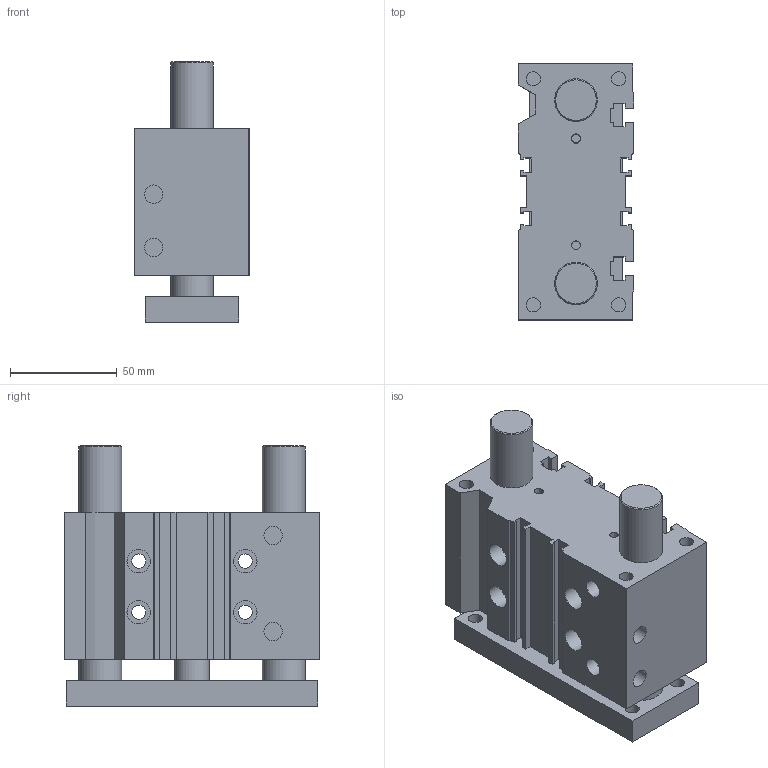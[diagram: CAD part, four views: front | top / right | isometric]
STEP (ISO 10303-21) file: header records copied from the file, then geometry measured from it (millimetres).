
FILE_DESCRIPTION((''),'2;1');
FILE_NAME('I:\Area Tecnica\Disegni\VARIE-3D\Componenti\6100\6100 Ø20-63\6100_##_###_#\6100400025B.stp','2012-01-11T09:03:15',('airolcr1'),(''),'Autodesk Inventor 2012','Autodesk Inventor 2012','');
FILE_SCHEMA(('AUTOMOTIVE_DESIGN { 1 0 10303 214 1 1 1 1 }'));
Length unit declared in the file: millimetre
Products named in the file (3): 6100400025B; CORPO Ø40 C25 B; PIASTRA Ø40 C25 B
Assembly tree (2 placements, depth 2):
  6100400025B
    CORPO Ø40 C25 B
    PIASTRA Ø40 C25 B
Bounding box: 54 x 120 x 122 mm (x, y, z)
Volume: 480807.7 mm3; surface area: 91923.4 mm2
Topology: 2 solids, 2 shells, 166 faces, 417 edges, 277 vertices
Faces by surface type: plane 126, cylinder 38, cone 2
Full cylindrical faces by diameter (mm): 4 x6, 6.647 x8, 6.65 x4, 8.566 x4, 11 x4, 16 x2, 20 x4
Entity records: 5013 total; most frequent: CARTESIAN_POINT 815, DIRECTION 798, ORIENTED_EDGE 750, EDGE_CURVE 375, VECTOR 294, LINE 294, VERTEX_POINT 269, AXIS2_PLACEMENT_3D 252
